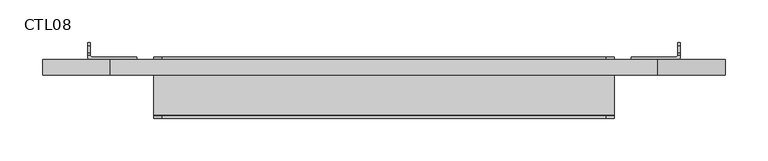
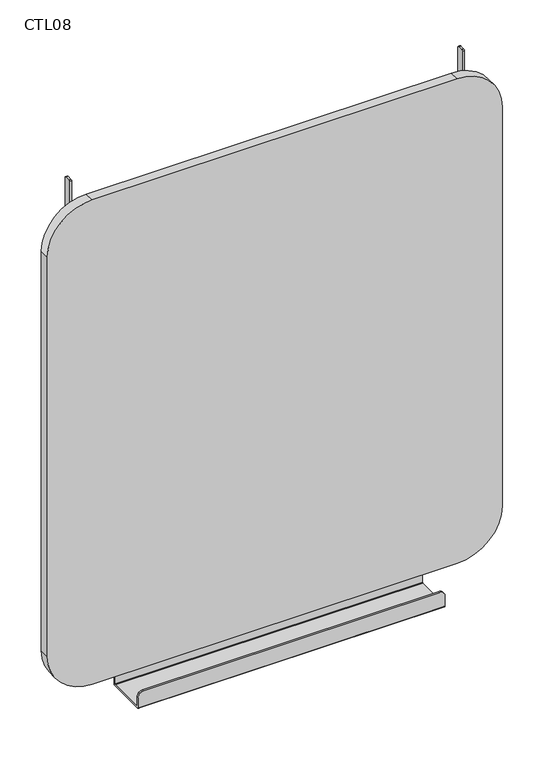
"""IFC4 building model written with IfcOpenShell, lengths in millimetres: furniture geometry, Mobiliário_Mobiliário de Escritório_Lousa - CTL08_Marelli : CTL08."""

from ifc_helpers import new_model, si_unit, point, frame, frame_2d, origin, place, context, project, spatial, polyline, circle_curve, trimmed, segment, composite_curve, outline, extrude, source, transform, mapped, element, save
from ifc_brep_helpers import plane_surface, cylinder_surface, revolved_surface, advanced_brep


def ctl08_756360dd(model_context):
    return source(origin(), model_context, "Body", "SolidModel", [
        extrude(outline(composite_curve([segment(trimmed(circle_curve(frame_2d((111.0, 721.0)), 79.0), [point((32.0, 721.0))], [point((111.0, 800.0))], False, "CARTESIAN"), True, "CONTINUOUS"), segment(polyline([(111.0, 800.0), (853.0, 800.0)]), True, "CONTINUOUS"), segment(trimmed(circle_curve(frame_2d((853.0, 721.0)), 79.0), [point((853.0, 800.0))], [point((932.0, 721.0))], False, "CARTESIAN"), True, "CONTINUOUS"), segment(polyline([(932.0, 721.0), (932.0, 79.0)]), True, "CONTINUOUS"), segment(trimmed(circle_curve(frame_2d((853.0, 79.0)), 79.0), [point((932.0, 79.0))], [point((853.0, 0.0))], False, "CARTESIAN"), True, "CONTINUOUS"), segment(polyline([(853.0, 0.0), (111.0, 0.0)]), True, "CONTINUOUS"), segment(trimmed(circle_curve(frame_2d((111.0, 79.0)), 79.0), [point((111.0, 0.0))], [point((32.0, 79.0))], False, "CARTESIAN"), True, "CONTINUOUS"), segment(polyline([(32.0, 79.0), (32.0, 721.0)]), True, "CONTINUOUS")], self_intersect=False)), frame((0.0, -18.0, 0.0), z_axis=(0.0, 1.0, 0.0), x_axis=(0.0, 0.0, 1.0)), (0.0, 0.0, 1.0), 18.0),
        advanced_brep(
        [(670.0, 0.0, 3.9967413), (670.0, -0.9967413, 3.0), (670.0, -65.0032587, 3.0), (670.0, -66.0, 3.9967413), (670.0, -66.0, 20.0), (670.0, -69.0, 20.0), (670.0, -69.0, 0.9967413), (670.0, -68.0032587, 0.0), (670.0, 2.0032587, 0.0), (670.0, 3.0, 0.9967413), (670.0, 3.0, 50.0), (670.0, 0.0, 50.0), (130.0, 3.0, 0.9967413), (130.0, 2.0032587, 0.0), (130.0, -68.0032587, 0.0), (130.0, -69.0, 0.9967413), (130.0, -69.0, 20.0), (130.0, -66.0, 20.0), (130.0, -66.0, 3.9967413), (130.0, -65.0032587, 3.0), (130.0, -0.9967413, 3.0), (130.0, 0.0, 3.9967413), (130.0, 0.0, 50.0), (130.0, 3.0, 50.0), (660.0, 0.0, 60.0), (140.0, 0.0, 60.0), (140.0, -66.0, 30.0), (660.0, -66.0, 30.0), (140.0, -69.0, 30.0), (660.0, -69.0, 30.0), (140.0, 3.0, 60.0), (660.0, 3.0, 60.0)],
        [
            (0, 1, circle_curve(frame((670.0, -0.9967413, 3.9967413), z_axis=(-1.0, 0.0, 0.0), x_axis=(0.0, -1.0, 0.0)), 0.9967413)),
            (1, 2),
            (2, 3, circle_curve(frame((670.0, -65.0032587, 3.9967413), z_axis=(-1.0, 0.0, 0.0), x_axis=(0.0, 1.0, 0.0)), 0.9967413)),
            (3, 4),
            (4, 5),
            (5, 6),
            (6, 7, circle_curve(frame((670.0, -68.0032587, 0.9967413), z_axis=(1.0, 0.0, 0.0), x_axis=(0.0, 1.0, 0.0)), 0.9967413)),
            (7, 8),
            (8, 9, circle_curve(frame((670.0, 2.0032587, 0.9967413), z_axis=(1.0, 0.0, 0.0), x_axis=(0.0, -1.0, 0.0)), 0.9967413)),
            (9, 10),
            (10, 11),
            (11, 0),
            (12, 13, circle_curve(frame((130.0, 2.0032587, 0.9967413), z_axis=(-1.0, 0.0, 0.0), x_axis=(0.0, -1.0, 0.0)), 0.9967413)),
            (13, 14),
            (14, 15, circle_curve(frame((130.0, -68.0032587, 0.9967413), z_axis=(-1.0, 0.0, 0.0), x_axis=(0.0, 1.0, 0.0)), 0.9967413)),
            (15, 16),
            (16, 17),
            (17, 18),
            (18, 19, circle_curve(frame((130.0, -65.0032587, 3.9967413), z_axis=(1.0, 0.0, 0.0), x_axis=(0.0, 1.0, 0.0)), 0.9967413)),
            (19, 20),
            (20, 21, circle_curve(frame((130.0, -0.9967413, 3.9967413), z_axis=(1.0, 0.0, 0.0), x_axis=(0.0, -1.0, 0.0)), 0.9967413)),
            (21, 22),
            (22, 23),
            (23, 12),
            (21, 0),
            (11, 24, circle_curve(frame((660.0, 0.0, 50.0), z_axis=(0.0, -1.0, 0.0), x_axis=(-1.0, 0.0, 0.0)), 10.0)),
            (24, 25),
            (25, 22, circle_curve(frame((140.0, 0.0, 50.0), z_axis=(0.0, -1.0, 0.0), x_axis=(1.0, 0.0, 0.0)), 10.0)),
            (1, 20),
            (19, 2),
            (3, 18),
            (17, 26, circle_curve(frame((140.0, -66.0, 20.0), z_axis=(0.0, 1.0, 0.0), x_axis=(1.0, 0.0, 0.0)), 10.0)),
            (26, 27),
            (27, 4, circle_curve(frame((660.0, -66.0, 20.0), z_axis=(0.0, 1.0, 0.0), x_axis=(-1.0, 0.0, 0.0)), 10.0)),
            (26, 28),
            (28, 29),
            (29, 27),
            (15, 6),
            (5, 29, circle_curve(frame((660.0, -69.0, 20.0), z_axis=(0.0, -1.0, 0.0), x_axis=(-1.0, 0.0, 0.0)), 10.0)),
            (28, 16, circle_curve(frame((140.0, -69.0, 20.0), z_axis=(0.0, -1.0, 0.0), x_axis=(1.0, 0.0, 0.0)), 10.0)),
            (7, 14),
            (13, 8),
            (9, 12),
            (23, 30, circle_curve(frame((140.0, 3.0, 50.0), z_axis=(0.0, 1.0, 0.0), x_axis=(1.0, 0.0, 0.0)), 10.0)),
            (30, 31),
            (31, 10, circle_curve(frame((660.0, 3.0, 50.0), z_axis=(0.0, 1.0, 0.0), x_axis=(-1.0, 0.0, 0.0)), 10.0)),
            (24, 31),
            (30, 25),
        ],
        [
            plane_surface(frame((670.0, 0.0, 0.0), z_axis=(1.0, 0.0, 0.0), x_axis=(0.0, 0.0, -1.0))),
            plane_surface(frame((130.0, 0.0, 0.0), z_axis=(-1.0, 0.0, 0.0), x_axis=(0.0, 0.0, 1.0))),
            plane_surface(frame((670.0, 0.0, 60.0), z_axis=(0.0, -1.0, 0.0), x_axis=(-1.0, 0.0, 0.0))),
            plane_surface(frame((670.0, -0.9967413, 3.0), z_axis=(0.0, 0.0, 1.0), x_axis=(-1.0, 0.0, 0.0))),
            plane_surface(frame((670.0, -66.0, 3.9967413), z_axis=(0.0, 1.0, 0.0), x_axis=(-1.0, 0.0, 0.0))),
            plane_surface(frame((670.0, -66.0, 30.0), z_axis=(0.0, 0.0, 1.0), x_axis=(-1.0, 0.0, 0.0))),
            plane_surface(frame((670.0, -69.0, 30.0), z_axis=(0.0, -1.0, 0.0), x_axis=(-1.0, 0.0, 0.0))),
            plane_surface(frame((670.0, -68.0032587, 0.0), z_axis=(0.0, 0.0, -1.0), x_axis=(-1.0, 0.0, 0.0))),
            plane_surface(frame((670.0, 3.0, 0.9967413), z_axis=(0.0, 1.0, 0.0), x_axis=(-1.0, 0.0, 0.0))),
            plane_surface(frame((670.0, 3.0, 60.0), z_axis=(0.0, 0.0, 1.0), x_axis=(-1.0, 0.0, 0.0))),
            revolved_surface(polyline([(130.0, -1.9934826, 3.9967413), (670.0, -1.9934826, 3.9967413)]), (130.0, -0.9967413, 3.9967413), (-1.0, 0.0, 0.0)),
            revolved_surface(polyline([(130.0, -64.0065174, 3.9967413), (670.0, -64.0065174, 3.9967413)]), (130.0, -65.0032587, 3.9967413), (-1.0, 0.0, 0.0)),
            cylinder_surface(frame((130.0, -68.0032587, 0.9967413), z_axis=(1.0, 0.0, 0.0), x_axis=(0.0, 1.0, 0.0)), 0.9967413),
            cylinder_surface(frame((130.0, 2.0032587, 0.9967413), z_axis=(1.0, 0.0, 0.0), x_axis=(0.0, -1.0, 0.0)), 0.9967413),
            cylinder_surface(frame((140.0, -29.5926469, 20.0), z_axis=(0.0, 1.0, 0.0), x_axis=(1.0, 0.0, 0.0)), 10.0),
            cylinder_surface(frame((660.0, 0.0, 20.0), z_axis=(0.0, 1.0, 0.0), x_axis=(-1.0, 0.0, 0.0)), 10.0),
            cylinder_surface(frame((140.0, 83.4022272, 50.0), z_axis=(0.0, 1.0, 0.0), x_axis=(1.0, 0.0, 0.0)), 10.0),
            cylinder_surface(frame((660.0, 0.0, 50.0), z_axis=(0.0, 1.0, 0.0), x_axis=(-1.0, 0.0, 0.0)), 10.0),
        ],
        [
            (0, [[1, 2, 3, 4, 5, 6, 7, 8, 9, 10, 11, 12]]),
            (1, [[13, 14, 15, 16, 17, 18, 19, 20, 21, 22, 23, 24]]),
            (2, [[25, -12, 26, 27, 28, -22]]),
            (3, [[-2, 29, -20, 30]]),
            (4, [[31, -18, 32, 33, 34, -4]]),
            (5, [[-33, 35, 36, 37]]),
            (6, [[38, -6, 39, -36, 40, -16]]),
            (7, [[-8, 41, -14, 42]]),
            (8, [[43, -24, 44, 45, 46, -10]]),
            (9, [[-27, 47, -45, 48]]),
            (10, [[-1, -25, -21, -29]]),
            (11, [[-3, -30, -19, -31]]),
            (12, [[-7, -38, -15, -41]]),
            (13, [[-9, -42, -13, -43]]),
            (14, [[-17, -40, -35, -32]]),
            (15, [[-5, -34, -37, -39]]),
            (16, [[-23, -28, -48, -44]]),
            (17, [[-11, -46, -47, -26]]),
        ],
    ),
        advanced_brep(
        [(53.0, 16.008334, 963.0), (53.0, 7.991666, 963.0), (56.0, 7.991666, 963.0), (56.0, 16.008334, 963.0), (53.0, 20.0, 863.0), (53.0, 2.0, 863.0), (53.0, 2.0, 923.0), (53.0, 5.0, 923.0), (53.0, 5.0, 961.6509335), (53.0, 20.0, 959.008334), (56.0, 5.0, 923.0), (56.0, 5.0, 961.6509335), (56.0, 5.0, 863.0), (56.0, 20.0, 863.0), (56.0, 20.0, 959.008334), (55.0, 0.0, 923.0), (110.0, 0.0, 923.0), (110.0, 3.0, 923.0), (58.0, 3.0, 923.0), (55.0, 0.0, 863.0), (58.0, 3.0, 863.0), (110.0, 3.0, 863.0), (110.0, 0.0, 863.0)],
        [
            (0, 1),
            (1, 2),
            (2, 3),
            (3, 0),
            (4, 5),
            (5, 6),
            (6, 7),
            (7, 8),
            (8, 1, circle_curve(frame((53.0, 7.991666, 959.008334), z_axis=(-1.0, 0.0, 0.0), x_axis=(0.0, 1.0, 0.0)), 3.991666)),
            (0, 9, circle_curve(frame((53.0, 16.008334, 959.008334), z_axis=(-1.0, 0.0, 0.0), x_axis=(0.0, -1.0, 0.0)), 3.991666)),
            (9, 4),
            (7, 10),
            (10, 11),
            (11, 8),
            (12, 13),
            (13, 14),
            (14, 3, circle_curve(frame((56.0, 16.008334, 959.008334), z_axis=(1.0, 0.0, 0.0), x_axis=(0.0, -1.0, 0.0)), 3.991666)),
            (2, 11, circle_curve(frame((56.0, 7.991666, 959.008334), z_axis=(1.0, 0.0, 0.0), x_axis=(0.0, 1.0, 0.0)), 3.991666)),
            (10, 12),
            (13, 4),
            (9, 14),
            (15, 16),
            (16, 17),
            (17, 18),
            (18, 10, circle_curve(frame((58.0, 5.0, 923.0), z_axis=(0.0, 0.0, -1.0), x_axis=(1.0, 0.0, 0.0)), 2.0)),
            (6, 15, circle_curve(frame((55.0, 2.0, 923.0), z_axis=(0.0, 0.0, 1.0), x_axis=(1.0, 0.0, 0.0)), 2.0)),
            (19, 5, circle_curve(frame((55.0, 2.0, 863.0), z_axis=(0.0, 0.0, -1.0), x_axis=(1.0, 0.0, 0.0)), 2.0)),
            (12, 20, circle_curve(frame((58.0, 5.0, 863.0), z_axis=(0.0, 0.0, 1.0), x_axis=(1.0, 0.0, 0.0)), 2.0)),
            (20, 21),
            (21, 22),
            (22, 19),
            (15, 19),
            (22, 16),
            (21, 17),
            (20, 18),
        ],
        [
            plane_surface(frame((53.0, 20.0, 963.0), z_axis=(0.0, 0.0, 1.0), x_axis=(0.0, -1.0, 0.0))),
            plane_surface(frame((53.0, 20.0, 963.0), z_axis=(-1.0, 0.0, 0.0), x_axis=(0.0, 0.0, -1.0))),
            plane_surface(frame((53.0, 5.0, 963.0), z_axis=(0.0, -1.0, 0.0), x_axis=(0.0, 0.0, -1.0))),
            plane_surface(frame((56.0, 5.0, 963.0), z_axis=(1.0, 0.0, 0.0), x_axis=(0.0, 0.0, -1.0))),
            plane_surface(frame((56.0, 20.0, 963.0), z_axis=(0.0, 1.0, 0.0), x_axis=(0.0, 0.0, -1.0))),
            plane_surface(frame((110.0, 0.0, 923.0), z_axis=(0.0, 0.0, 1.0), x_axis=(1.0, 0.0, 0.0))),
            plane_surface(frame((110.0, 0.0, 863.0), z_axis=(0.0, 0.0, -1.0), x_axis=(-1.0, 0.0, 0.0))),
            plane_surface(frame((55.0, 0.0, 923.0), z_axis=(0.0, -1.0, 0.0), x_axis=(0.0, 0.0, -1.0))),
            plane_surface(frame((110.0, 0.0, 923.0), z_axis=(1.0, 0.0, 0.0), x_axis=(0.0, 0.0, -1.0))),
            plane_surface(frame((110.0, 3.0, 923.0), z_axis=(0.0, 1.0, 0.0), x_axis=(0.0, 0.0, -1.0))),
            revolved_surface(polyline([(60.0, 5.0, 863.0), (60.0, 5.0, 923.0)]), (58.0, 5.0, 863.0), (0.0, 0.0, -1.0)),
            cylinder_surface(frame((55.0, 2.0, 863.0), z_axis=(0.0, 0.0, 1.0), x_axis=(1.0, 0.0, 0.0)), 2.0),
            cylinder_surface(frame((0.0, 16.008334, 959.008334), z_axis=(-1.0, 0.0, 0.0), x_axis=(0.0, -1.0, 0.0)), 3.991666),
            cylinder_surface(frame((0.0, 7.991666, 959.008334), z_axis=(-1.0, 0.0, 0.0), x_axis=(0.0, 1.0, 0.0)), 3.991666),
        ],
        [
            (0, [[1, 2, 3, 4]]),
            (1, [[5, 6, 7, 8, 9, -1, 10, 11]]),
            (2, [[12, 13, 14, -8]]),
            (3, [[15, 16, 17, -3, 18, -13, 19]]),
            (4, [[20, -11, 21, -16]]),
            (5, [[22, 23, 24, 25, -12, -7, 26]]),
            (6, [[27, -5, -20, -15, 28, 29, 30, 31]]),
            (7, [[-22, 32, -31, 33]]),
            (8, [[-23, -33, -30, 34]]),
            (9, [[-24, -34, -29, 35]]),
            (10, [[-25, -35, -28, -19]]),
            (11, [[-26, -6, -27, -32]]),
            (12, [[-4, -17, -21, -10]]),
            (13, [[-2, -9, -14, -18]]),
        ],
    ),
        advanced_brep(
        [(744.0, 16.008334, 963.0), (744.0, 7.991666, 963.0), (747.0, 7.991666, 963.0), (747.0, 16.008334, 963.0), (747.0, 5.0, 961.6509335), (747.0, 5.0, 923.0), (747.0, 2.0, 923.0), (747.0, 2.0, 863.0), (747.0, 20.0, 863.0), (747.0, 20.0, 959.008334), (744.0, 5.0, 961.6509335), (744.0, 5.0, 923.0), (744.0, 20.0, 959.008334), (744.0, 20.0, 863.0), (744.0, 5.0, 863.0), (745.0, 0.0, 923.0), (742.0, 3.0, 923.0), (690.0, 3.0, 923.0), (690.0, 0.0, 923.0), (745.0, 0.0, 863.0), (690.0, 0.0, 863.0), (690.0, 3.0, 863.0), (742.0, 3.0, 863.0)],
        [
            (0, 1),
            (1, 2),
            (2, 3),
            (3, 0),
            (2, 4, circle_curve(frame((747.0, 7.991666, 959.008334), z_axis=(1.0, 0.0, 0.0), x_axis=(0.0, 1.0, 0.0)), 3.991666)),
            (4, 5),
            (5, 6),
            (6, 7),
            (7, 8),
            (8, 9),
            (9, 3, circle_curve(frame((747.0, 16.008334, 959.008334), z_axis=(1.0, 0.0, 0.0), x_axis=(0.0, -1.0, 0.0)), 3.991666)),
            (4, 10),
            (10, 11),
            (11, 5),
            (0, 12, circle_curve(frame((744.0, 16.008334, 959.008334), z_axis=(-1.0, 0.0, 0.0), x_axis=(0.0, -1.0, 0.0)), 3.991666)),
            (12, 13),
            (13, 14),
            (14, 11),
            (10, 1, circle_curve(frame((744.0, 7.991666, 959.008334), z_axis=(-1.0, 0.0, 0.0), x_axis=(0.0, 1.0, 0.0)), 3.991666)),
            (12, 9),
            (8, 13),
            (15, 6, circle_curve(frame((745.0, 2.0, 923.0), z_axis=(0.0, 0.0, 1.0), x_axis=(-1.0, 0.0, 0.0)), 2.0)),
            (11, 16, circle_curve(frame((742.0, 5.0, 923.0), z_axis=(0.0, 0.0, -1.0), x_axis=(-1.0, 0.0, 0.0)), 2.0)),
            (16, 17),
            (17, 18),
            (18, 15),
            (19, 20),
            (20, 21),
            (21, 22),
            (22, 14, circle_curve(frame((742.0, 5.0, 863.0), z_axis=(0.0, 0.0, 1.0), x_axis=(-1.0, 0.0, 0.0)), 2.0)),
            (7, 19, circle_curve(frame((745.0, 2.0, 863.0), z_axis=(0.0, 0.0, -1.0), x_axis=(-1.0, 0.0, 0.0)), 2.0)),
            (18, 20),
            (19, 15),
            (17, 21),
            (16, 22),
        ],
        [
            plane_surface(frame((745.0, 20.0, 963.0), z_axis=(0.0, 0.0, 1.0), x_axis=(-1.0, 0.0, 0.0))),
            plane_surface(frame((747.0, 5.0, 963.0), z_axis=(1.0, 0.0, 0.0), x_axis=(0.0, 0.0, -1.0))),
            plane_surface(frame((744.0, 5.0, 963.0), z_axis=(0.0, -1.0, 0.0), x_axis=(0.0, 0.0, -1.0))),
            plane_surface(frame((744.0, 20.0, 963.0), z_axis=(-1.0, 0.0, 0.0), x_axis=(0.0, 0.0, -1.0))),
            plane_surface(frame((747.0, 20.0, 963.0), z_axis=(0.0, 1.0, 0.0), x_axis=(0.0, 0.0, -1.0))),
            plane_surface(frame((743.0, 2.0, 923.0), z_axis=(0.0, 0.0, 1.0), x_axis=(0.0, -1.0, 0.0))),
            plane_surface(frame((743.0, 2.0, 863.0), z_axis=(0.0, 0.0, -1.0), x_axis=(0.0, 1.0, 0.0))),
            plane_surface(frame((690.0, 0.0, 923.0), z_axis=(0.0, -1.0, 0.0), x_axis=(0.0, 0.0, -1.0))),
            plane_surface(frame((690.0, 3.0, 923.0), z_axis=(-1.0, 0.0, 0.0), x_axis=(0.0, 0.0, -1.0))),
            plane_surface(frame((742.0, 3.0, 923.0), z_axis=(0.0, 1.0, 0.0), x_axis=(0.0, 0.0, -1.0))),
            revolved_surface(polyline([(740.0, 5.0, 863.0), (740.0, 5.0, 923.0)]), (742.0, 5.0, 863.0), (0.0, 0.0, -1.0)),
            cylinder_surface(frame((745.0, 2.0, 863.0), z_axis=(0.0, 0.0, 1.0), x_axis=(-1.0, 0.0, 0.0)), 2.0),
            cylinder_surface(frame((0.0, 16.008334, 959.008334), z_axis=(-1.0, 0.0, 0.0), x_axis=(0.0, -1.0, 0.0)), 3.991666),
            cylinder_surface(frame((0.0, 7.991666, 959.008334), z_axis=(-1.0, 0.0, 0.0), x_axis=(0.0, 1.0, 0.0)), 3.991666),
        ],
        [
            (0, [[1, 2, 3, 4]]),
            (1, [[-3, 5, 6, 7, 8, 9, 10, 11]]),
            (2, [[-6, 12, 13, 14]]),
            (3, [[-1, 15, 16, 17, 18, -13, 19]]),
            (4, [[-16, 20, -10, 21]]),
            (5, [[22, -7, -14, 23, 24, 25, 26]]),
            (6, [[27, 28, 29, 30, -17, -21, -9, 31]]),
            (7, [[-26, 32, -27, 33]]),
            (8, [[-25, 34, -28, -32]]),
            (9, [[-24, 35, -29, -34]]),
            (10, [[-23, -18, -30, -35]]),
            (11, [[-22, -33, -31, -8]]),
            (12, [[-4, -11, -20, -15]]),
            (13, [[-2, -19, -12, -5]]),
        ],
    ),
    ])


if __name__ == "__main__":
    model = new_model("IFC4")
    model_context = context("Model", 3, world=origin())
    ifc_project = project(units=[si_unit("LENGTHUNIT", "METRE", prefix="MILLI")], contexts=[model_context])
    site = spatial("IfcSite", under=ifc_project)
    building = spatial("IfcBuilding", under=site)
    placement = place(None, origin())
    ctl08_shape = ctl08_756360dd(model_context)
    element("IfcFurniture", 1, ObjectType="Mobiliário_Mobiliário de Escritório_Lousa - CTL08_Marelli : CTL08", at=placement, inside=building, context=model_context, shape_type="MappedRepresentation", body=[
        mapped(ctl08_shape, transform((0.0, 0.0, 0.0), x_axis=(1.0, 0.0, 0.0), y_axis=(0.0, 1.0, 0.0), z_axis=(0.0, 0.0, 1.0))),
    ])
    save(model, "model.ifc")
